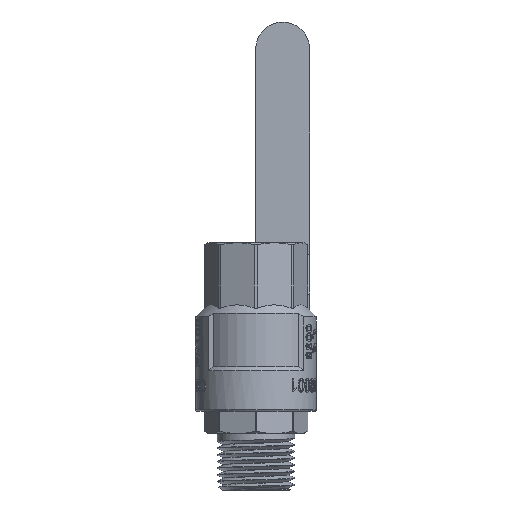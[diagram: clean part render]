
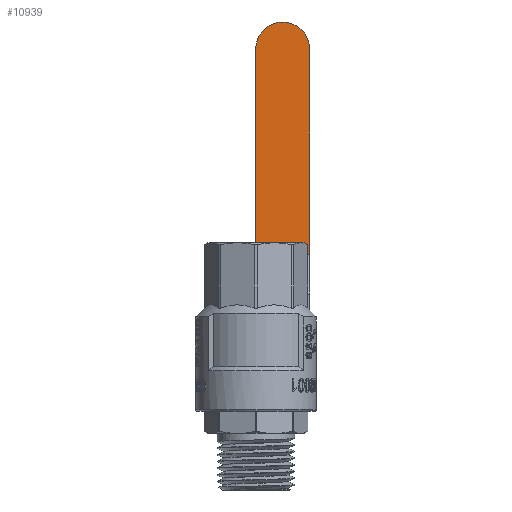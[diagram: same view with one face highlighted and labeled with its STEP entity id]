
A CAD part, front view. The second image highlights one B-rep face of the part: STEP entity #10939.
In plain terms, the highlighted planar face has unit normal (0, -1, 0) by its records, which use the part's own axes.
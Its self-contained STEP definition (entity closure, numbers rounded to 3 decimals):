
#279=PLANE('',#11577);
#1481=FACE_OUTER_BOUND('',#2130,.T.);
#2130=EDGE_LOOP('',(#10051,#10052,#10053,#10054));
#2405=CIRCLE('',#11555,7.25);
#3679=LINE('',#28933,#4389);
#3680=LINE('',#28936,#4390);
#3691=LINE('',#28963,#4401);
#4389=VECTOR('',#13484,10.);
#4390=VECTOR('',#13487,10.);
#4401=VECTOR('',#13514,10.);
#5418=VERTEX_POINT('',#28882);
#5419=VERTEX_POINT('',#28883);
#5433=VERTEX_POINT('',#28920);
#5439=VERTEX_POINT('',#28935);
#6982=EDGE_CURVE('',#5418,#5419,#2405,.T.);
#7007=EDGE_CURVE('',#5433,#5418,#3679,.T.);
#7008=EDGE_CURVE('',#5419,#5439,#3680,.T.);
#7023=EDGE_CURVE('',#5439,#5433,#3691,.T.);
#10051=ORIENTED_EDGE('',*,*,#7007,.T.);
#10052=ORIENTED_EDGE('',*,*,#6982,.T.);
#10053=ORIENTED_EDGE('',*,*,#7008,.T.);
#10054=ORIENTED_EDGE('',*,*,#7023,.T.);
#10939=ADVANCED_FACE('',(#1481),#279,.T.);
#11555=AXIS2_PLACEMENT_3D('',#28884,#13440,#13441);
#11577=AXIS2_PLACEMENT_3D('',#28962,#13512,#13513);
#13440=DIRECTION('center_axis',(0.,-1.,0.));
#13441=DIRECTION('ref_axis',(-1.,0.,0.));
#13484=DIRECTION('',(0.,0.,1.));
#13487=DIRECTION('',(0.,0.,-1.));
#13512=DIRECTION('center_axis',(0.,-1.,0.));
#13513=DIRECTION('ref_axis',(0.,0.,-1.));
#13514=DIRECTION('',(1.,0.,0.));
#28882=CARTESIAN_POINT('',(14.443,41.645,82.13));
#28883=CARTESIAN_POINT('',(-0.057,41.645,82.13));
#28884=CARTESIAN_POINT('Origin',(7.193,41.645,82.13));
#28920=CARTESIAN_POINT('',(14.443,41.645,26.75));
#28933=CARTESIAN_POINT('',(14.443,41.645,51.037));
#28935=CARTESIAN_POINT('',(-0.057,41.645,26.75));
#28936=CARTESIAN_POINT('',(-0.057,41.645,86.695));
#28962=CARTESIAN_POINT('Origin',(0.,41.645,91.26));
#28963=CARTESIAN_POINT('',(0.,41.645,26.75));
